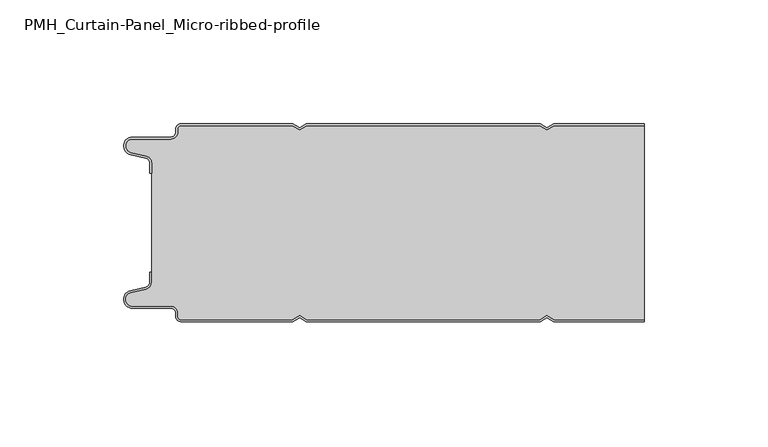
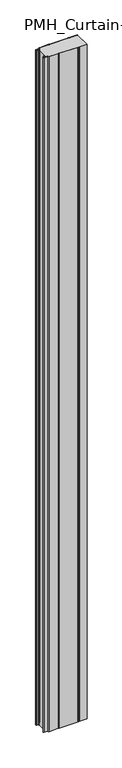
"""IFC4 building model written with IfcOpenShell, lengths in millimetres: plate geometry, PMH_Curtain-Panel_Micro-ribbed-profile : ACH_PMH_Stone-wool-Panel_80M."""

import ifcopenshell
import ifcopenshell.guid

model = None  # the IFC model being written
_history = None  # IfcOwnerHistory: only IFC2X3 demands one
_inside = {}  # id of a spatial element -> (the spatial element, [elements in it])
_under = {}  # id of a project, library or spatial element -> (it, [spatial elements below it])
_declared = {}  # id of a project -> (the project, [libraries it declares])
_typed = {}  # id of a type object -> (the type object, [elements of that type])
_made_of = {}  # id of a material, layer set ... -> (it, [elements and type objects made of it])


def new_model(schema):
    """Start an empty IFC model of exactly this schema.

    Asked for "IFC4X3", IfcOpenShell would pick the latest addendum, in which some entities
    have other attributes; the version numbers below select the first issue.
    IFC2X3 requires an IfcOwnerHistory on every rooted entity: one is made here for all.
    """
    global model, _history
    if schema == "IFC4X3":
        model = ifcopenshell.file(schema_version=(4, 3, 0, 0))
    else:
        model = ifcopenshell.file(schema=schema)
    _inside.clear()
    _under.clear()
    _declared.clear()
    _typed.clear()
    _made_of.clear()
    _history = None
    if model.schema == "IFC2X3":
        org = make("IfcOrganization", Name="unknown")
        user = make(
            "IfcPersonAndOrganization",
            ThePerson=make("IfcPerson", FamilyName="unknown"),
            TheOrganization=org,
        )
        app = make(
            "IfcApplication",
            ApplicationDeveloper=org,
            Version="unknown",
            ApplicationFullName="unknown",
            ApplicationIdentifier="unknown",
        )
        _history = make(
            "IfcOwnerHistory",
            OwningUser=user,
            OwningApplication=app,
            ChangeAction="ADDED",
            CreationDate=0,
        )
    return model


def make(cls, **values):
    """One entity of the class cls with the attributes given. An attribute that is None is left unset."""
    return model.create_entity(
        cls, **{name: value for name, value in values.items() if value is not None}
    )


def rooted(cls, **values):
    """An entity with a GlobalId (a new one), such as an element, a storey or a relation."""
    return make(cls, GlobalId=ifcopenshell.guid.new(), OwnerHistory=_history, **values)


def si_unit(unit_type, name, prefix=None):
    """IfcSIUnit, for example si_unit("LENGTHUNIT", "METRE", prefix="MILLI")."""
    return make("IfcSIUnit", UnitType=unit_type, Prefix=prefix, Name=name)


def assignment(units):
    """IfcUnitAssignment: the units of a project."""
    return None if units is None else make("IfcUnitAssignment", Units=units)


def point(xyz):
    """IfcCartesianPoint."""
    return None if xyz is None else make("IfcCartesianPoint", Coordinates=xyz)


def direction(xyz):
    """IfcDirection."""
    return None if xyz is None else make("IfcDirection", DirectionRatios=xyz)


def frame(location, z_axis=None, x_axis=None):
    """IfcAxis2Placement3D, a coordinate frame: its origin and axes. An axis left out is left unset."""
    return make(
        "IfcAxis2Placement3D",
        Location=point(location),
        Axis=direction(z_axis),
        RefDirection=direction(x_axis),
    )


def frame_2d(location, x_axis=None):
    """IfcAxis2Placement2D, a coordinate frame in the plane: its origin and x axis."""
    return make(
        "IfcAxis2Placement2D", Location=point(location), RefDirection=direction(x_axis)
    )


def origin():
    """The frame at (0, 0, 0) with its axes left unset."""
    return frame((0.0, 0.0, 0.0))


def origin_with_axes():
    """The frame at (0, 0, 0) with the z axis (0, 0, 1) and the x axis (1, 0, 0) written out."""
    return frame((0.0, 0.0, 0.0), z_axis=(0.0, 0.0, 1.0), x_axis=(1.0, 0.0, 0.0))


def place(relative_to, where):
    """IfcLocalPlacement: puts the frame where relative to a parent placement (None: the world)."""
    return make(
        "IfcLocalPlacement", PlacementRelTo=relative_to, RelativePlacement=where
    )


def context(
    kind, dimensions, precision=None, world=None, true_north=None, identifier=None
):
    """IfcGeometricRepresentationContext, for example the 3D "Model" context."""
    return make(
        "IfcGeometricRepresentationContext",
        ContextIdentifier=identifier,
        ContextType=kind,
        CoordinateSpaceDimension=dimensions,
        Precision=precision,
        WorldCoordinateSystem=world,
        TrueNorth=true_north,
    )


def project(units=None, contexts=None):
    """IfcProject with its units and contexts."""
    return rooted(
        "IfcProject",
        Name="project",
        RepresentationContexts=contexts,
        UnitsInContext=assignment(units),
    )


def spatial(cls, under=None, at=None, **own):
    """A site, building, storey or space (cls), placed at a placement, below another one or the project."""
    s = rooted(cls, ObjectPlacement=at, **own)
    if under is not None:
        _under.setdefault(under.id(), (under, []))[1].append(s)
    return s


def polyline(points):
    """IfcPolyline through the points."""
    return make("IfcPolyline", Points=[point(p) for p in points])


def circle_curve(where, radius):
    """IfcCircle in the frame where."""
    return make("IfcCircle", Position=where, Radius=radius)


def trimmed(basis, trim1, trim2, sense, master):
    """IfcTrimmedCurve: the piece of a basis curve between two trims."""
    return make(
        "IfcTrimmedCurve",
        BasisCurve=basis,
        Trim1=trim1,
        Trim2=trim2,
        SenseAgreement=sense,
        MasterRepresentation=master,
    )


def segment(curve, same_sense, transition):
    """IfcCompositeCurveSegment."""
    return make(
        "IfcCompositeCurveSegment",
        Transition=transition,
        SameSense=same_sense,
        ParentCurve=curve,
    )


def composite_curve(segments, self_intersect=None):
    """IfcCompositeCurve: segments joined end to end."""
    return make("IfcCompositeCurve", Segments=segments, SelfIntersect=self_intersect)


def outline(outer, holes=None, kind="AREA"):
    """IfcArbitraryClosedProfileDef: a profile drawn as a closed curve; with holes, ...WithVoids."""
    if holes is None:
        return make("IfcArbitraryClosedProfileDef", ProfileType=kind, OuterCurve=outer)
    return make(
        "IfcArbitraryProfileDefWithVoids",
        ProfileType=kind,
        OuterCurve=outer,
        InnerCurves=holes,
    )


def extrude(swept, where, along, depth):
    """IfcExtrudedAreaSolid: the profile swept, set in the frame where, extruded along a direction by depth."""
    return make(
        "IfcExtrudedAreaSolid",
        SweptArea=swept,
        Position=where,
        ExtrudedDirection=direction(along),
        Depth=depth,
    )


def shape(context_of_items, identifier, shape_type, items):
    """IfcShapeRepresentation: the items that make up one representation, for example the "Body"."""
    return make(
        "IfcShapeRepresentation",
        ContextOfItems=context_of_items,
        RepresentationIdentifier=identifier,
        RepresentationType=shape_type,
        Items=items,
    )


def source(mapping_origin, context_of_items, identifier, shape_type, items):
    """IfcRepresentationMap: a shape defined once, which mapped items show again and again."""
    return make(
        "IfcRepresentationMap",
        MappingOrigin=mapping_origin,
        MappedRepresentation=shape(context_of_items, identifier, shape_type, items),
    )


def transform(
    local_origin,
    x_axis=None,
    y_axis=None,
    z_axis=None,
    scale=None,
    scale2=None,
    scale3=None,
    uniform=True,
):
    """IfcCartesianTransformationOperator3D, or its non-uniform kind. x_axis, y_axis, z_axis: its Axis1, 2, 3."""
    if uniform:
        return make(
            "IfcCartesianTransformationOperator3D",
            Axis1=direction(x_axis),
            Axis2=direction(y_axis),
            LocalOrigin=point(local_origin),
            Scale=scale,
            Axis3=direction(z_axis),
        )
    return make(
        "IfcCartesianTransformationOperator3DnonUniform",
        Axis1=direction(x_axis),
        Axis2=direction(y_axis),
        LocalOrigin=point(local_origin),
        Scale=scale,
        Axis3=direction(z_axis),
        Scale2=scale2,
        Scale3=scale3,
    )


def mapped(mapping_source, mapping_target):
    """IfcMappedItem: shows the shape of a source again, moved by a transform."""
    return make(
        "IfcMappedItem", MappingSource=mapping_source, MappingTarget=mapping_target
    )


def made_of(thing, what):
    """Note that an element or type object is made of a material, layer set ...; save() writes the relation."""
    if what is not None:
        _made_of.setdefault(what.id(), (what, []))[1].append(thing)
    return thing


def element(
    cls,
    number,
    at=None,
    inside=None,
    cuts=None,
    type_object=None,
    material=None,
    context=None,
    identifier="Body",
    shape_type=None,
    held_by="IfcProductDefinitionShape",
    body=None,
    shapes=None,
    **own,
):
    """One element of the class cls, such as IfcWall. Its Tag is "e" and its number.

    at: its placement. inside: the storey or other place that contains it. cuts: it is an
    opening in that element (IfcRelVoidsElement). A single representation is given by context,
    identifier, shape_type and body (its items); several are given by shapes. held_by: the class
    of the entity that holds the representations. save() writes the other relations.
    """
    e = rooted(cls, Tag="e%d" % number, ObjectPlacement=at, **own)
    if body is not None:
        shapes = [shape(context, identifier, shape_type, body)]
    if shapes is not None:
        e.Representation = make(held_by, Representations=shapes)
    if inside is not None:
        _inside.setdefault(inside.id(), (inside, []))[1].append(e)
    if cuts is not None:
        rooted(
            "IfcRelVoidsElement", RelatingBuildingElement=cuts, RelatedOpeningElement=e
        )
    if type_object is not None:
        _typed.setdefault(type_object.id(), (type_object, []))[1].append(e)
    return made_of(e, material)


def aggregate(whole, parts):
    """IfcRelAggregates: a whole, such as a stair, and the parts it consists of."""
    return rooted("IfcRelAggregates", RelatingObject=whole, RelatedObjects=parts)


def save(model, path):
    """Write the relations noted so far, then the file.

    IfcRelAggregates (storeys below a building ...), IfcRelContainedInSpatialStructure (elements
    in a storey), IfcRelDefinesByType, IfcRelAssociatesMaterial and IfcRelDeclares: one each for
    every whole, place, type object, material and project.
    """
    for whole, parts in _under.values():
        aggregate(whole, parts)
    for where, things in _inside.values():
        rooted(
            "IfcRelContainedInSpatialStructure",
            RelatedElements=things,
            RelatingStructure=where,
        )
    for kind, things in _typed.values():
        rooted("IfcRelDefinesByType", RelatedObjects=things, RelatingType=kind)
    for what, things in _made_of.values():
        rooted("IfcRelAssociatesMaterial", RelatedObjects=things, RelatingMaterial=what)
    for by, libraries in _declared.values():
        rooted("IfcRelDeclares", RelatingContext=by, RelatedDefinitions=libraries)
    model.write(path)


def pmh_curtain_panel_micro_ribbed_profile_b40cf5fc(model_context):
    return source(origin(), model_context, "Body", "SweptSolid", [
        extrude(outline(composite_curve([segment(trimmed(circle_curve(frame_2d((-102.0, -15.878557)), 2.0), [point((-100.0, -15.878557))], [point((-101.5500978, -13.9298169))], True, "CARTESIAN"), True, "CONTINUOUS"), segment(polyline([(-101.5500978, -13.9298169), (-107.7098239, -12.507732)]), True, "CONTINUOUS"), segment(trimmed(circle_curve(frame_2d((-106.9, -9.0)), 3.6), [point((-107.7098239, -12.507732))], [point((-106.9, -5.4))], False, "CARTESIAN"), True, "CONTINUOUS"), segment(polyline([(-106.9, -5.4), (-91.4, -5.4)]), True, "CONTINUOUS"), segment(trimmed(circle_curve(frame_2d((-91.4, -3.4)), 2.0), [point((-91.4, -5.4))], [point((-89.4, -3.4))], True, "CARTESIAN"), True, "CONTINUOUS"), segment(polyline([(-89.4, -3.4), (-89.4, -2.0)]), True, "CONTINUOUS"), segment(trimmed(circle_curve(frame_2d((-87.4, -2.0)), 2.0), [point((-89.4, -2.0))], [point((-87.4, 0.0))], False, "CARTESIAN"), True, "CONTINUOUS"), segment(polyline([(-87.4, 0.0), (-42.0999995, 0.0), (-39.4, -1.5588455), (-36.7000005, 0.0), (57.9000005, 0.0), (60.6, -1.5588455), (63.2999995, 0.0), (100.0, 0.0), (100.0, -0.8), (63.5143588, -0.8), (60.6, -2.482606), (57.6856412, -0.8), (-36.4856412, -0.8), (-39.4, -2.482606), (-42.3143588, -0.8), (-87.4, -0.8)]), True, "CONTINUOUS"), segment(trimmed(circle_curve(frame_2d((-87.4, -2.0)), 1.2), [point((-87.4, -0.8))], [point((-88.6, -2.0))], True, "CARTESIAN"), True, "CONTINUOUS"), segment(polyline([(-88.6, -2.0), (-88.6, -3.4)]), True, "CONTINUOUS"), segment(trimmed(circle_curve(frame_2d((-91.4, -3.4)), 2.8), [point((-88.6, -3.4))], [point((-91.4, -6.2))], False, "CARTESIAN"), True, "CONTINUOUS"), segment(polyline([(-91.4, -6.2), (-106.9, -6.2)]), True, "CONTINUOUS"), segment(trimmed(circle_curve(frame_2d((-106.9, -9.0)), 2.8), [point((-106.9, -6.2))], [point((-107.529863, -11.7282362))], True, "CARTESIAN"), True, "CONTINUOUS"), segment(polyline([(-107.529863, -11.7282362), (-101.370137, -13.150321)]), True, "CONTINUOUS"), segment(trimmed(circle_curve(frame_2d((-102.0, -15.878557)), 2.8), [point((-101.370137, -13.150321))], [point((-99.2, -15.878557))], False, "CARTESIAN"), True, "CONTINUOUS"), segment(polyline([(-99.2, -15.878557), (-99.2, -20.0), (-100.0, -20.0), (-100.0, -15.878557)]), True, "CONTINUOUS")], self_intersect=False)), origin_with_axes(), (0.0, 0.0, 1.0), 3500.0),
        extrude(outline(composite_curve([segment(polyline([(-99.2, -64.1214426), (-99.2, -15.8785573)]), True, "CONTINUOUS"), segment(trimmed(circle_curve(frame_2d((-102.0, -15.8785573)), 2.8), [point((-99.2, -15.8785573))], [point((-101.370137, -13.1503212))], True, "CARTESIAN"), True, "CONTINUOUS"), segment(polyline([(-101.370137, -13.1503212), (-107.5298631, -11.7282362)]), True, "CONTINUOUS"), segment(trimmed(circle_curve(frame_2d((-106.9, -9.0)), 2.8), [point((-107.5298631, -11.7282362))], [point((-106.9, -6.2))], False, "CARTESIAN"), True, "CONTINUOUS"), segment(polyline([(-106.9, -6.2), (-91.4000001, -6.2)]), True, "CONTINUOUS"), segment(trimmed(circle_curve(frame_2d((-91.4000001, -3.4)), 2.8), [point((-91.4000001, -6.2))], [point((-88.6000001, -3.4))], True, "CARTESIAN"), True, "CONTINUOUS"), segment(polyline([(-88.6000001, -3.4), (-88.6000001, -2.0)]), True, "CONTINUOUS"), segment(trimmed(circle_curve(frame_2d((-87.4000001, -2.0)), 1.2), [point((-88.6000001, -2.0))], [point((-87.4000001, -0.8))], False, "CARTESIAN"), True, "CONTINUOUS"), segment(polyline([(-87.4000001, -0.8), (-42.3143589, -0.8), (-39.4000001, -2.482606), (-36.4856412, -0.8), (57.6856411, -0.8), (60.5999999, -2.482606), (63.5143588, -0.8), (100.0, -0.8), (100.0, -79.2), (63.5143588, -79.2), (60.5999999, -77.517394), (57.6856411, -79.2), (-36.4856412, -79.2), (-39.4000001, -77.517394), (-42.3143589, -79.2), (-87.4000001, -79.2)]), True, "CONTINUOUS"), segment(trimmed(circle_curve(frame_2d((-87.4000001, -78.0)), 1.2), [point((-87.4000001, -79.2))], [point((-88.6000001, -78.0))], False, "CARTESIAN"), True, "CONTINUOUS"), segment(polyline([(-88.6000001, -78.0), (-88.6000001, -76.6)]), True, "CONTINUOUS"), segment(trimmed(circle_curve(frame_2d((-91.4000001, -76.6)), 2.8), [point((-88.6000001, -76.6))], [point((-91.4000001, -73.8))], True, "CARTESIAN"), True, "CONTINUOUS"), segment(polyline([(-91.4000001, -73.8), (-106.9, -73.8)]), True, "CONTINUOUS"), segment(trimmed(circle_curve(frame_2d((-106.9, -71.0)), 2.8), [point((-106.9, -73.8))], [point((-107.5298631, -68.2717638))], False, "CARTESIAN"), True, "CONTINUOUS"), segment(polyline([(-107.5298631, -68.2717638), (-101.370137, -66.8496788)]), True, "CONTINUOUS"), segment(trimmed(circle_curve(frame_2d((-102.0, -64.1214426)), 2.8), [point((-101.370137, -66.8496788))], [point((-99.2, -64.1214426))], True, "CARTESIAN"), True, "CONTINUOUS")], self_intersect=False)), origin_with_axes(), (0.0, 0.0, 1.0), 3500.0),
        extrude(outline(composite_curve([segment(polyline([(-100.0, -64.121443), (-100.0, -60.0), (-99.2, -60.0), (-99.2, -64.121443)]), True, "CONTINUOUS"), segment(trimmed(circle_curve(frame_2d((-102.0, -64.121443)), 2.8), [point((-99.2, -64.121443))], [point((-101.370137, -66.8496792))], False, "CARTESIAN"), True, "CONTINUOUS"), segment(polyline([(-101.370137, -66.8496792), (-107.529863, -68.271764)]), True, "CONTINUOUS"), segment(trimmed(circle_curve(frame_2d((-106.9, -71.0)), 2.8), [point((-107.529863, -68.271764))], [point((-106.9, -73.8))], True, "CARTESIAN"), True, "CONTINUOUS"), segment(polyline([(-106.9, -73.8), (-91.4, -73.8)]), True, "CONTINUOUS"), segment(trimmed(circle_curve(frame_2d((-91.4, -76.6)), 2.8), [point((-91.4, -73.8))], [point((-88.6, -76.6))], False, "CARTESIAN"), True, "CONTINUOUS"), segment(polyline([(-88.6, -76.6), (-88.6, -78.0)]), True, "CONTINUOUS"), segment(trimmed(circle_curve(frame_2d((-87.4, -78.0)), 1.2), [point((-88.6, -78.0))], [point((-87.4, -79.2))], True, "CARTESIAN"), True, "CONTINUOUS"), segment(polyline([(-87.4, -79.2), (-42.3143588, -79.2), (-39.4, -77.517394), (-36.4856412, -79.2), (57.6856412, -79.2), (60.6, -77.517394), (63.5143588, -79.2), (100.0, -79.2), (100.0, -80.0), (63.2999995, -80.0), (60.6, -78.4411545), (57.9000005, -80.0), (-36.7000005, -80.0), (-39.4, -78.4411545), (-42.0999995, -80.0), (-87.4, -80.0)]), True, "CONTINUOUS"), segment(trimmed(circle_curve(frame_2d((-87.4, -78.0)), 2.0), [point((-87.4, -80.0))], [point((-89.4, -78.0))], False, "CARTESIAN"), True, "CONTINUOUS"), segment(polyline([(-89.4, -78.0), (-89.4, -76.6)]), True, "CONTINUOUS"), segment(trimmed(circle_curve(frame_2d((-91.4, -76.6)), 2.0), [point((-89.4, -76.6))], [point((-91.4, -74.6))], True, "CARTESIAN"), True, "CONTINUOUS"), segment(polyline([(-91.4, -74.6), (-106.9, -74.6)]), True, "CONTINUOUS"), segment(trimmed(circle_curve(frame_2d((-106.9, -71.0)), 3.6), [point((-106.9, -74.6))], [point((-107.7098239, -67.4922678))], False, "CARTESIAN"), True, "CONTINUOUS"), segment(polyline([(-107.7098239, -67.4922678), (-101.5500979, -66.070183)]), True, "CONTINUOUS"), segment(trimmed(circle_curve(frame_2d((-102.0, -64.121443)), 2.0), [point((-101.5500979, -66.070183))], [point((-100.0, -64.121443))], True, "CARTESIAN"), True, "CONTINUOUS")], self_intersect=False)), origin_with_axes(), (0.0, 0.0, 1.0), 3500.0),
    ])


if __name__ == "__main__":
    model = new_model("IFC4")
    model_context = context("Model", 3, world=origin())
    ifc_project = project(units=[si_unit("LENGTHUNIT", "METRE", prefix="MILLI")], contexts=[model_context])
    site = spatial("IfcSite", under=ifc_project)
    building = spatial("IfcBuilding", under=site)
    placement = place(None, origin())
    pmh_curtain_panel_micro_ribbed_profile_shape = pmh_curtain_panel_micro_ribbed_profile_b40cf5fc(model_context)
    element("IfcPlate", 1, ObjectType="PMH_Curtain-Panel_Micro-ribbed-profile : ACH_PMH_Stone-wool-Panel_80M", at=placement, inside=building, context=model_context, shape_type="MappedRepresentation", body=[
        mapped(pmh_curtain_panel_micro_ribbed_profile_shape, transform((0.0, 0.0, 0.0), x_axis=(1.0, 0.0, 0.0), y_axis=(0.0, 1.0, 0.0), z_axis=(0.0, 0.0, 1.0))),
    ])
    save(model, "model.ifc")
